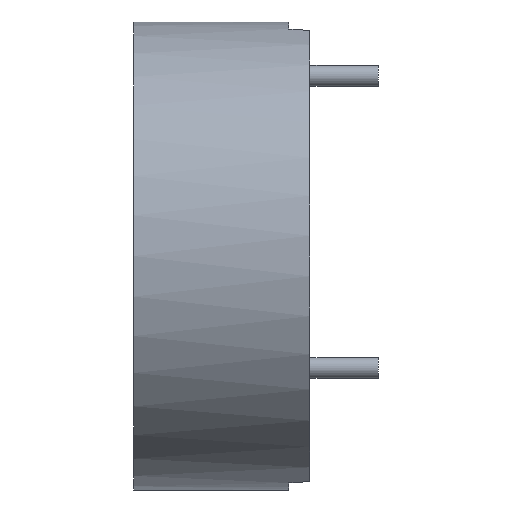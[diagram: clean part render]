
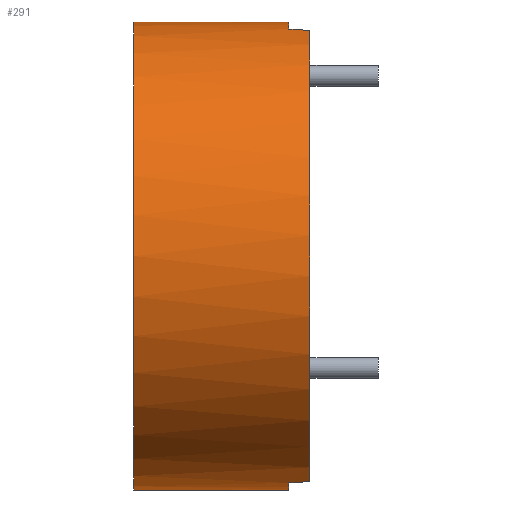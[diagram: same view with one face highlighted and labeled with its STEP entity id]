
A CAD part, left-side view. The second image highlights one B-rep face of the part: STEP entity #291.
In plain terms, the highlighted cylindrical face has radius 14.287 mm (diameter 28.575 mm), a partial arc.
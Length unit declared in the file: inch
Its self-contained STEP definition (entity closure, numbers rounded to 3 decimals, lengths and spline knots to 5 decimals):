
#78 = ORIENTED_EDGE ( 'NONE', *, *, #7728, .T. ) ;
#89 = EDGE_CURVE ( 'NONE', #5134, #1653, #2139, .T. ) ;
#291 = ADVANCED_FACE ( 'NONE', ( #9774 ), #5115, .T. ) ;
#377 = CARTESIAN_POINT ( 'NONE',  ( -0.15, -0.2115, 0.54213 ) ) ;
#591 = CARTESIAN_POINT ( 'NONE',  ( 0., 0.2115, -0.5625 ) ) ;
#629 = CARTESIAN_POINT ( 'NONE',  ( -0.14108, -0.17822, 0.54454 ) ) ;
#908 = LINE ( 'NONE', #1693, #4178 ) ;
#936 = CIRCLE ( 'NONE', #7745, 0.5625 ) ;
#1028 = ORIENTED_EDGE ( 'NONE', *, *, #5530, .F. ) ;
#1218 = ORIENTED_EDGE ( 'NONE', *, *, #7645, .T. ) ;
#1272 = DIRECTION ( 'NONE',  ( 0., 0., 1. ) ) ;
#1408 = EDGE_LOOP ( 'NONE', ( #3355, #1028, #4404, #78, #5336, #4705, #1218, #8000 ) ) ;
#1516 = VERTEX_POINT ( 'NONE', #9424 ) ;
#1653 = VERTEX_POINT ( 'NONE', #3585 ) ;
#1693 = CARTESIAN_POINT ( 'NONE',  ( 0., 0.2115, -0.5625 ) ) ;
#1852 = VERTEX_POINT ( 'NONE', #2899 ) ;
#1865 =( BOUNDED_CURVE ( )  B_SPLINE_CURVE ( 3, ( #377, #6078, #629, #8170 ),
 .UNSPECIFIED., .F., .F. ) 
 B_SPLINE_CURVE_WITH_KNOTS ( ( 4, 4 ),
 ( 1.30086, 1.32549 ),
 .UNSPECIFIED. ) 
 CURVE ( )  GEOMETRIC_REPRESENTATION_ITEM ( )  RATIONAL_B_SPLINE_CURVE ( ( 1., 1., 1., 1. ) ) 
 REPRESENTATION_ITEM ( '' )  );
#1962 = DIRECTION ( 'NONE',  ( 0., 1., 0. ) ) ;
#2139 =( BOUNDED_CURVE ( )  B_SPLINE_CURVE ( 3, ( #5021, #5758, #7197, #8634 ),
 .UNSPECIFIED., .F., .T. ) 
 B_SPLINE_CURVE_WITH_KNOTS ( ( 4, 4 ),
 ( 4.95769, 4.98232 ),
 .UNSPECIFIED. ) 
 CURVE ( )  GEOMETRIC_REPRESENTATION_ITEM ( )  RATIONAL_B_SPLINE_CURVE ( ( 1., 1., 1., 1. ) ) 
 REPRESENTATION_ITEM ( '' )  );
#2217 = CARTESIAN_POINT ( 'NONE',  ( 0., -0.1615, 0. ) ) ;
#2589 = CIRCLE ( 'NONE', #5902, 0.5625 ) ;
#2899 = CARTESIAN_POINT ( 'NONE',  ( 0., -0.1615, 0.5625 ) ) ;
#2919 = CIRCLE ( 'NONE', #3867, 0.5625 ) ;
#3035 = CIRCLE ( 'NONE', #8899, 0.5625 ) ;
#3123 = DIRECTION ( 'NONE',  ( 0., 1., 0. ) ) ;
#3141 = CARTESIAN_POINT ( 'NONE',  ( 0., -0.1615, -0.5625 ) ) ;
#3355 = ORIENTED_EDGE ( 'NONE', *, *, #4968, .F. ) ;
#3400 = VERTEX_POINT ( 'NONE', #3805 ) ;
#3514 = CARTESIAN_POINT ( 'NONE',  ( 0., 0.2115, 0. ) ) ;
#3585 = CARTESIAN_POINT ( 'NONE',  ( -0.15, -0.2115, -0.54213 ) ) ;
#3591 = DIRECTION ( 'NONE',  ( 0., -1., 0. ) ) ;
#3805 = CARTESIAN_POINT ( 'NONE',  ( -0.15, -0.2115, 0.54213 ) ) ;
#3867 = AXIS2_PLACEMENT_3D ( 'NONE', #4529, #5319, #9192 ) ;
#4009 = CARTESIAN_POINT ( 'NONE',  ( 0., -0.1615, 0. ) ) ;
#4178 = VECTOR ( 'NONE', #6855, 39.37008 ) ;
#4404 = ORIENTED_EDGE ( 'NONE', *, *, #7246, .T. ) ;
#4494 = DIRECTION ( 'NONE',  ( 0., 1., 0. ) ) ;
#4529 = CARTESIAN_POINT ( 'NONE',  ( 0., -0.2115, 0. ) ) ;
#4705 = ORIENTED_EDGE ( 'NONE', *, *, #7187, .T. ) ;
#4854 = VERTEX_POINT ( 'NONE', #3141 ) ;
#4968 = EDGE_CURVE ( 'NONE', #8468, #1852, #5068, .T. ) ;
#5021 = CARTESIAN_POINT ( 'NONE',  ( -0.1366, -0.1615, -0.54566 ) ) ;
#5068 = LINE ( 'NONE', #6557, #5522 ) ;
#5115 = CYLINDRICAL_SURFACE ( 'NONE', #6895, 0.5625 ) ;
#5134 = VERTEX_POINT ( 'NONE', #5597 ) ;
#5319 = DIRECTION ( 'NONE',  ( 0., 1., 0. ) ) ;
#5336 = ORIENTED_EDGE ( 'NONE', *, *, #89, .T. ) ;
#5522 = VECTOR ( 'NONE', #8092, 39.37008 ) ;
#5530 = EDGE_CURVE ( 'NONE', #9065, #8468, #936, .T. ) ;
#5597 = CARTESIAN_POINT ( 'NONE',  ( -0.1366, -0.1615, -0.54566 ) ) ;
#5758 = CARTESIAN_POINT ( 'NONE',  ( -0.14108, -0.17822, -0.54454 ) ) ;
#5902 = AXIS2_PLACEMENT_3D ( 'NONE', #2217, #4494, #8360 ) ;
#5910 = CARTESIAN_POINT ( 'NONE',  ( 0., 0.2115, 0. ) ) ;
#6078 = CARTESIAN_POINT ( 'NONE',  ( -0.14555, -0.19489, 0.54336 ) ) ;
#6138 = DIRECTION ( 'NONE',  ( 0., 0., 1. ) ) ;
#6557 = CARTESIAN_POINT ( 'NONE',  ( 0., 0.2115, 0.5625 ) ) ;
#6697 = EDGE_CURVE ( 'NONE', #1516, #1852, #3035, .T. ) ;
#6855 = DIRECTION ( 'NONE',  ( 0., -1., 0. ) ) ;
#6895 = AXIS2_PLACEMENT_3D ( 'NONE', #5910, #3591, #8142 ) ;
#6977 = CARTESIAN_POINT ( 'NONE',  ( 0., 0.2115, 0.5625 ) ) ;
#7187 = EDGE_CURVE ( 'NONE', #1653, #3400, #2919, .T. ) ;
#7197 = CARTESIAN_POINT ( 'NONE',  ( -0.14555, -0.19489, -0.54336 ) ) ;
#7246 = EDGE_CURVE ( 'NONE', #9065, #4854, #908, .T. ) ;
#7645 = EDGE_CURVE ( 'NONE', #3400, #1516, #1865, .T. ) ;
#7728 = EDGE_CURVE ( 'NONE', #4854, #5134, #2589, .T. ) ;
#7745 = AXIS2_PLACEMENT_3D ( 'NONE', #3514, #1962, #1272 ) ;
#8000 = ORIENTED_EDGE ( 'NONE', *, *, #6697, .T. ) ;
#8092 = DIRECTION ( 'NONE',  ( 0., -1., 0. ) ) ;
#8142 = DIRECTION ( 'NONE',  ( 0., 0., -1. ) ) ;
#8170 = CARTESIAN_POINT ( 'NONE',  ( -0.1366, -0.1615, 0.54566 ) ) ;
#8360 = DIRECTION ( 'NONE',  ( 0., 0., 1. ) ) ;
#8468 = VERTEX_POINT ( 'NONE', #6977 ) ;
#8634 = CARTESIAN_POINT ( 'NONE',  ( -0.15, -0.2115, -0.54213 ) ) ;
#8899 = AXIS2_PLACEMENT_3D ( 'NONE', #4009, #3123, #6138 ) ;
#9065 = VERTEX_POINT ( 'NONE', #591 ) ;
#9192 = DIRECTION ( 'NONE',  ( 0., 0., 1. ) ) ;
#9424 = CARTESIAN_POINT ( 'NONE',  ( -0.1366, -0.1615, 0.54566 ) ) ;
#9774 = FACE_OUTER_BOUND ( 'NONE', #1408, .T. ) ;
